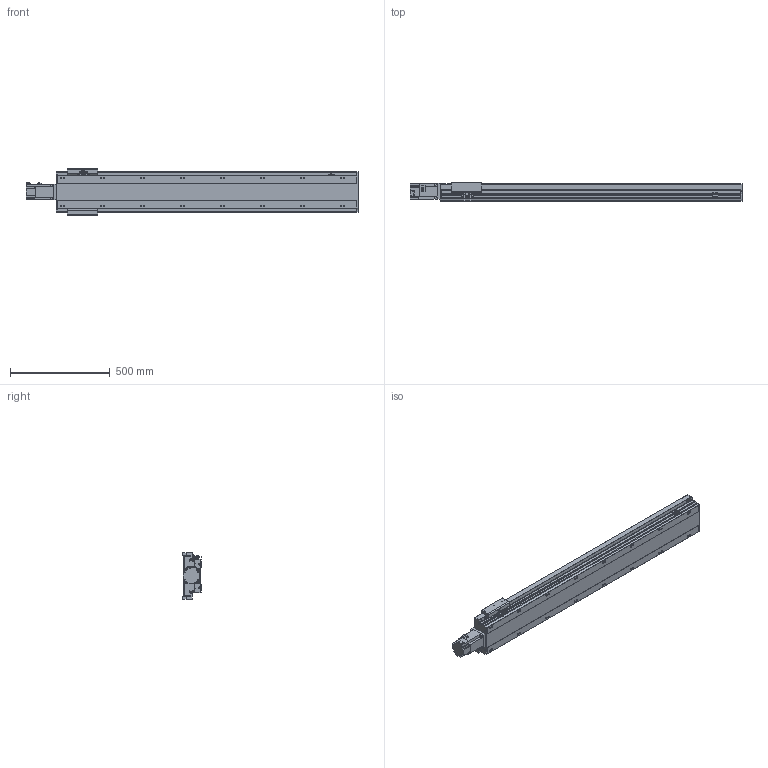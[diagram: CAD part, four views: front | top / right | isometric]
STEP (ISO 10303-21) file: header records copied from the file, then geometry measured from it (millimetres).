
FILE_DESCRIPTION(/* description */ ('STEP AP214'),/* implementation_level */ '2;1');
FILE_NAME(/* name */ 'PSM170-L10-S1250-BC-T75-C1-N(0)',/* time_stamp */ '2022-06-29T08:54:44+02:00',/* author */ ('License CC BY-ND 4.0'),/* organization */ ('CADENAS'),/* preprocessor_version */ 'ST-DEVELOPER v18.102',/* originating_system */ 'PARTsolutions',/* authorisation */ ' ');
FILE_SCHEMA (('AUTOMOTIVE_DESIGN {1 0 10303 214 3 1 1}'));
Length unit declared in the file: millimetre
Products named in the file (8): PSM170-L10-S1250-BC-T75-C1-N(0); PSM-Sensor; PSM140-S100-342.5; T75-p1; PSM170_body2; PSM170_body3; PSM170-S1250_body1; PSM170-L10-S1250-BC-T75-C1-N(0)_dummy
Assembly tree (11 placements, depth 2):
  PSM170-L10-S1250-BC-T75-C1-N(0)
    PSM-Sensor  x3
    PSM140-S100-342.5  x3
    T75-p1
    PSM170_body2
    PSM170_body3
    PSM170-S1250_body1
    PSM170-L10-S1250-BC-T75-C1-N(0)_dummy
Bounding box: 1661.3 x 92 x 233 mm (x, y, z)
Volume: 9761862.6 mm3; surface area: 1887131.4 mm2
Topology: 10 solids, 10 shells, 1115 faces, 2986 edges, 1943 vertices
Faces by surface type: plane 676, cylinder 353, cone 72, torus 14
Full cylindrical faces by diameter (mm): 2.8 x3, 3.08 x1, 4.134 x4, 4.5 x12, 4.6 x3, 5.7 x2, 6 x9, 6.647 x24, 7 x8, 7.6 x4, 8 x8, 8.5 x16, 10 x4, 14 x16, 45 x1, 70 x1
Entity records: 29598 total; most frequent: CARTESIAN_POINT 5558, DIRECTION 4900, ORIENTED_EDGE 4716, EDGE_CURVE 2358, AXIS2_PLACEMENT_3D 1673, VERTEX_POINT 1658, LINE 1554, VECTOR 1554
